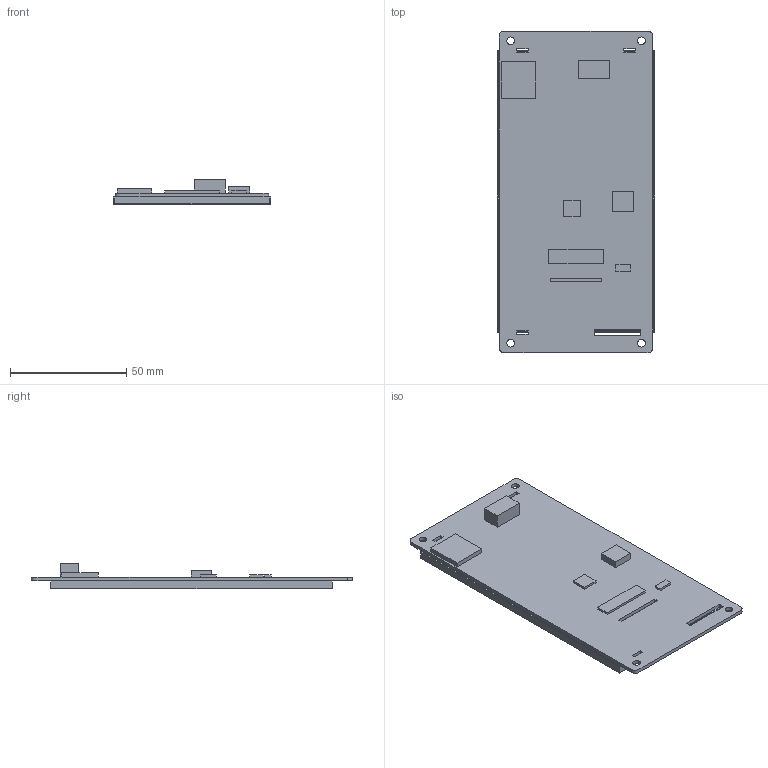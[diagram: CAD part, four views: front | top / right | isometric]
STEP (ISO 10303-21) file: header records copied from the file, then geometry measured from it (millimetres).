
FILE_DESCRIPTION(/* description */ (''),/* implementation_level */ '2;1');
FILE_NAME(/* name */ 'VTc050T34DN.stp',/* time_stamp */ '2024-12-24T14:47:05+08:00',/* author */ (''),/* organization */ (''),/* preprocessor_version */ 'ST-DEVELOPER v16',/* originating_system */ 'SIEMENS PLM Software NX 10.0',/* authorisation */ '');
FILE_SCHEMA (('AP203_CONFIGURATION_CONTROLLED_3D_DESIGN_OF_MECHANICAL_PARTS_AND_ASSEMBLIES_MIM_LF { 1 0 10303 403 2 1 2}'));
Length unit declared in the file: millimetre
Products named in the file (1): VTc050T34DN
Bounding box: 67.6 x 138.3 x 10.9 mm (x, y, z)
Volume: 33921.7 mm3; surface area: 54530.9 mm2
Topology: 4 solids, 4 shells, 89 faces, 222 edges, 148 vertices
Faces by surface type: plane 79, cylinder 8, extrusion 2
Full cylindrical faces by diameter (mm): 3.3 x4
Entity records: 3159 total; most frequent: CARTESIAN_POINT 888, ORIENTED_EDGE 436, DIRECTION 288, EDGE_CURVE 218, VERTEX_POINT 148, EDGE_LOOP 120, B_SPLINE_CURVE_WITH_KNOTS 120, AXIS2_PLACEMENT_3D 104
